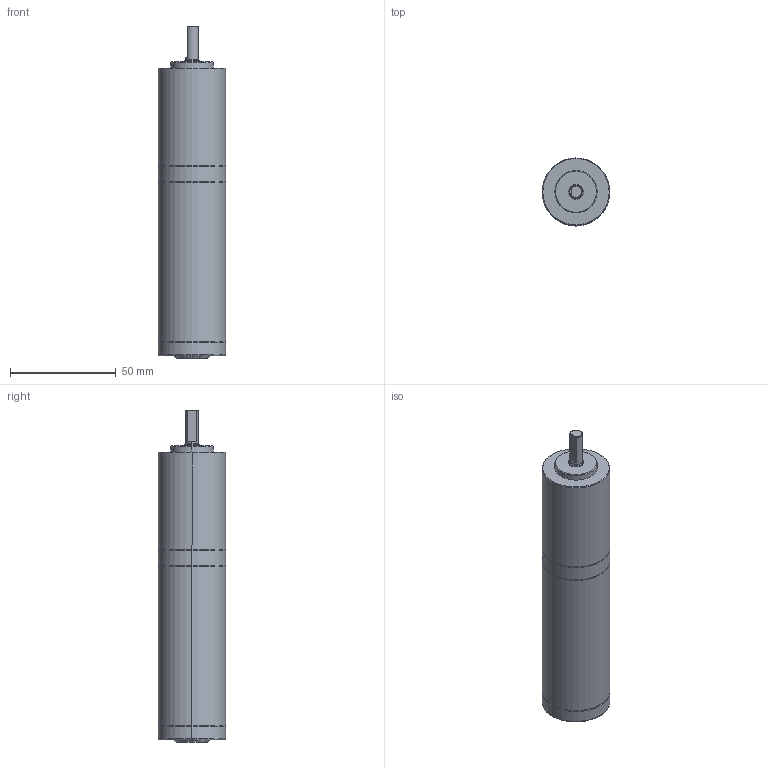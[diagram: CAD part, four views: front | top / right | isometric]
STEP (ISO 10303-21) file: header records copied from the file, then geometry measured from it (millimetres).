
FILE_DESCRIPTION (( 'STEP AP203' ), '1' );
FILE_NAME ('32BLD减速比三级整机.STEP', '2021-07-13T05:09:27', ( '' ), ( '' ), 'SwSTEP 2.0', 'SolidWorks 2021', '' );
FILE_SCHEMA (( 'CONFIG_CONTROL_DESIGN' ));
Length unit declared in the file: millimetre
Products named in the file (1): 32BLD减速比三级整机
Bounding box: 32 x 32 x 157.2 mm (x, y, z)
Volume: 111098.2 mm3; surface area: 15884 mm2
Topology: 1 solids, 1 shells, 45 faces, 99 edges, 62 vertices
Faces by surface type: cone 15, cylinder 14, plane 10, bspline 4, torus 2
Entity records: 1401 total; most frequent: CARTESIAN_POINT 321, DIRECTION 230, ORIENTED_EDGE 198, EDGE_CURVE 99, AXIS2_PLACEMENT_3D 99, VERTEX_POINT 62, CIRCLE 57, EDGE_LOOP 51
